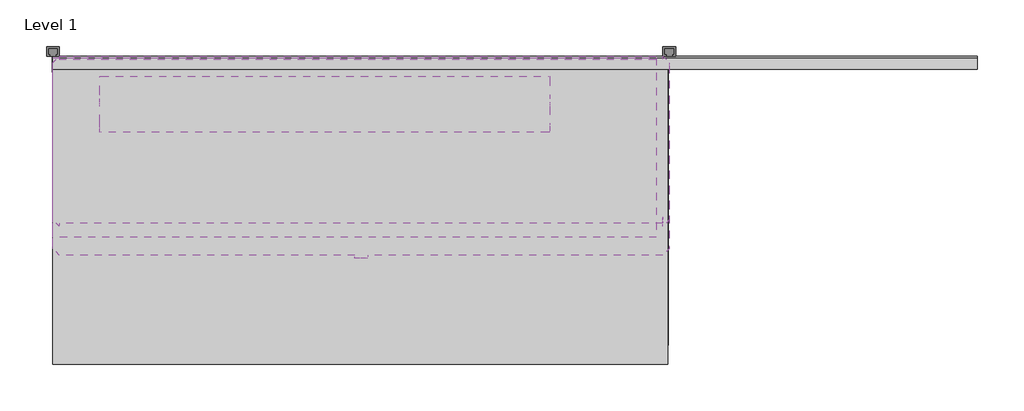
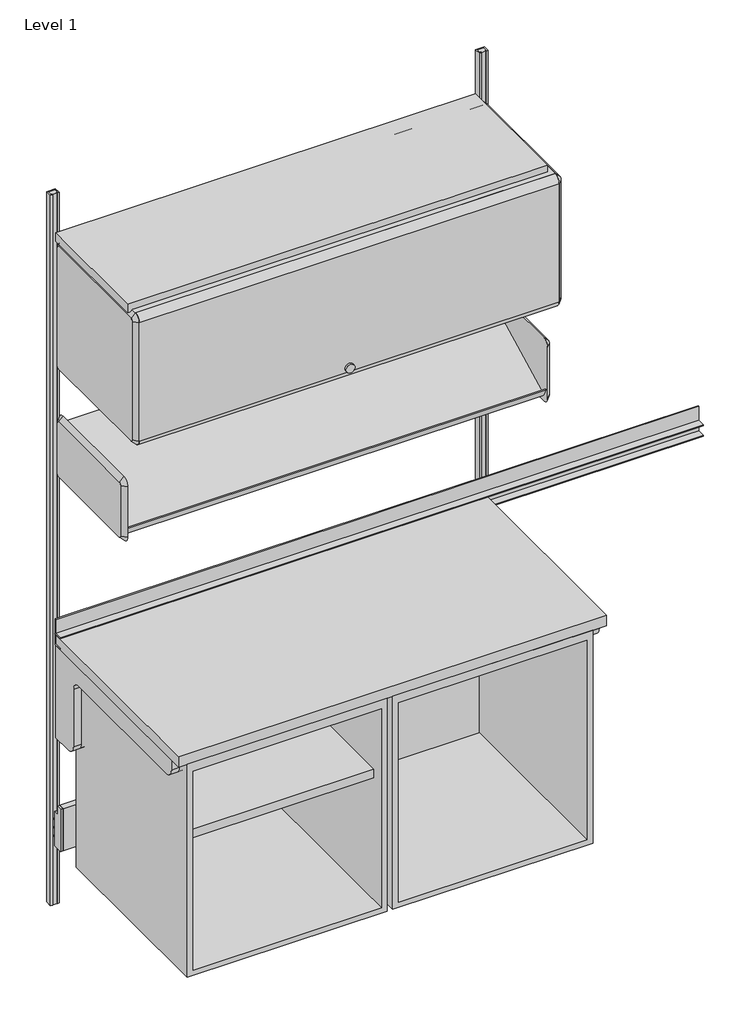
# One storey, incomplete: 13 furniture elements, 1 light fixture.
"""IFC4 building model written with IfcOpenShell, lengths in millimetres."""

from ifc_helpers import new_model, si_unit, origin, place, context, project, spatial, transform, mapped, element, save
from components import furniture_d92eedc3, furniture_0d7dd6e3, furniture_84a85ef8, furniture_de886b3f, furniture_05729c69, furniture_3fd23725, furniture_82a65ebb, furniture_4a924b53, furniture_2fefcdf8, furniture_ea425779, light_fixture_a1dc7b85

model = new_model("IFC4")

# Units and contexts
model_context = context("Model", 3, world=origin())
ifc_project = project(units=[si_unit("LENGTHUNIT", "METRE", prefix="MILLI")], contexts=[model_context])

# Site, building, storey
site = spatial("IfcSite", under=ifc_project)
building = spatial("IfcBuilding", under=site)
storey = spatial("IfcBuildingStorey", under=building, Name="Level 1", Elevation=0.0)

# Furniture
placement = place(None, origin())
furniture_shape = furniture_d92eedc3(model_context)
element("IfcFurniture", 1, ObjectType="HermanMiller_CoStruc_C2910_WorkSurfaceBacksplash : 3\"H x 72\"W", at=placement, inside=storey, context=model_context, shape_type="MappedRepresentation", body=[
    mapped(furniture_shape, transform((914.4, -19.05, 0.0), x_axis=(1.0, 0.0, 0.0), y_axis=(0.0, 1.0, 0.0), z_axis=(0.0, 0.0, 1.0))),
])
furniture_2_shape = furniture_0d7dd6e3(model_context)
element("IfcFurniture", 2, ObjectType="HermanMiller_CoStruc_C5040_StorageCase : 25\"H x 23\"D x 22\"W", at=placement, inside=storey, context=model_context, shape_type="MappedRepresentation", body=[
    mapped(furniture_2_shape, transform((892.79222, -355.7905, 0.0), x_axis=(1.0, 0.0, 0.0), y_axis=(0.0, 1.0, 0.0), z_axis=(0.0, 0.0, 1.0))),
])
element("IfcFurniture", 3, ObjectType="HermanMiller_CoStruc_C5040_StorageCase : 25\"H x 23\"D x 22\"W", at=placement, inside=storey, context=model_context, shape_type="MappedRepresentation", body=[
    mapped(furniture_2_shape, transform((308.59222, -355.7905, 0.0), x_axis=(1.0, 0.0, 0.0), y_axis=(0.0, 1.0, 0.0), z_axis=(0.0, 0.0, 1.0))),
])
furniture_3_shape = furniture_84a85ef8(model_context)
element("IfcFurniture", 4, ObjectType="HermanMiller_CoStruc_C2140H_WorkSurfaceSupport_Heavy Duty : 11\"H x 24\"D x 48\"W", at=placement, inside=storey, context=model_context, shape_type="MappedRepresentation", body=[
    mapped(furniture_3_shape, transform((609.6, -196.85, 0.0), x_axis=(1.0, 0.0, 0.0), y_axis=(0.0, 1.0, 0.0), z_axis=(0.0, 0.0, 1.0))),
])
furniture_4_shape = furniture_de886b3f(model_context)
element("IfcFurniture", 5, ObjectType="HermanMiller_CoStruc_C2141_Heavy-DutyWorkSurface : 24\"D x 48\"W Lam", at=placement, inside=storey, context=model_context, shape_type="MappedRepresentation", body=[
    mapped(furniture_4_shape, transform((303.23536, -196.85, 0.0), x_axis=(1.0, 0.0, 0.0), y_axis=(0.0, 1.0, 0.0), z_axis=(0.0, 0.0, 1.0))),
])
furniture_5_shape = furniture_05729c69(model_context)
element("IfcFurniture", 6, ObjectType="HermanMiller_CoStruc_C5041_StorageCaseShelf : 23\"D x 22\"W", at=placement, inside=storey, context=model_context, shape_type="MappedRepresentation", body=[
    mapped(furniture_5_shape, transform((463.1832004, -864.6875612, 0.0), x_axis=(1.0, 0.0, 0.0), y_axis=(0.0, 1.0, 0.0), z_axis=(0.0, 0.0, 1.0))),
])
element("IfcFurniture", 7, ObjectType="HermanMiller_CoStruc_C5041_StorageCaseShelf : 23\"D x 22\"W", at=placement, inside=storey, context=model_context, shape_type="MappedRepresentation", body=[
    mapped(furniture_5_shape, transform((463.1832004, -864.6875612, 0.0), x_axis=(1.0, 0.0, 0.0), y_axis=(0.0, 1.0, 0.0), z_axis=(0.0, 0.0, 1.0))),
])
furniture_6_shape = furniture_3fd23725(model_context)
element("IfcFurniture", 8, ObjectType="HermanMiller_ActionOffice_AO521_Add-OnShelf : 15\"\"D x 48\"\"W", at=placement, inside=storey, context=model_context, shape_type="MappedRepresentation", body=[
    mapped(furniture_6_shape, transform((756.2484004, -730.3164812, 0.0), x_axis=(1.0, 0.0, 0.0), y_axis=(0.0, 1.0, 0.0), z_axis=(0.0, 0.0, 1.0))),
])
furniture_7_shape = furniture_82a65ebb(model_context)
element("IfcFurniture", 9, ObjectType="HermanMiller_ActionOffice_A3352_B-StyleFlipperDoorUnit : 15 1/2\"H x 16\"D x 48\"W", at=placement, inside=storey, context=model_context, shape_type="MappedRepresentation", body=[
    mapped(furniture_7_shape, transform((609.6, -228.6, 0.0), x_axis=(1.0, 0.0, 0.0), y_axis=(0.0, 1.0, 0.0), z_axis=(0.0, 0.0, 1.0))),
])
furniture_8_shape = furniture_4a924b53(model_context)
element("IfcFurniture", 10, ObjectType="HermanMiller_ActionOffice_A3220_B-StyleStorageDisplay : Display 13\"D x 48\"W", at=placement, inside=storey, context=model_context, shape_type="MappedRepresentation", body=[
    mapped(furniture_8_shape, transform((733.5420045, -200.025, 0.0), x_axis=(1.0, 0.0, 0.0), y_axis=(0.0, 1.0, 0.0), z_axis=(0.0, 0.0, 1.0))),
])
furniture_9_shape = furniture_2fefcdf8(model_context)
element("IfcFurniture", 11, ObjectType="HermanMiller_CoStruc_C1610_AdapterRail : 48\"W", at=placement, inside=storey, context=model_context, shape_type="MappedRepresentation", body=[
    mapped(furniture_9_shape, transform((608.03536, -34.925, 0.0), x_axis=(1.0, 0.0, 0.0), y_axis=(0.0, 1.0, 0.0), z_axis=(0.0, 0.0, 1.0))),
])
furniture_10_shape = furniture_ea425779(model_context)
element("IfcFurniture", 12, ObjectType="HermanMiller_ActionOffice_AO213_WallStrip : 84\"H", at=placement, inside=storey, context=model_context, shape_type="MappedRepresentation", body=[
    mapped(furniture_10_shape, transform((0.0, 0.0, 0.0), x_axis=(1.0, 0.0, 0.0), y_axis=(0.0, 1.0, 0.0), z_axis=(0.0, 0.0, 1.0))),
])
element("IfcFurniture", 13, ObjectType="HermanMiller_ActionOffice_AO213_WallStrip : 84\"H", at=placement, inside=storey, context=model_context, shape_type="MappedRepresentation", body=[
    mapped(furniture_10_shape, transform((1219.2, 0.0, 0.0), x_axis=(1.0, 0.0, 0.0), y_axis=(0.0, 1.0, 0.0), z_axis=(0.0, 0.0, 1.0))),
])

# Light fixture
light_fixture_shape = light_fixture_a1dc7b85(model_context)
element("IfcLightFixture", 14, ObjectType="HermanMiller_SupplementalProducts_G6136_UtilityTaskLight : AO Etho Canvas 42W", at=placement, inside=storey, context=model_context, shape_type="MappedRepresentation", body=[
    mapped(light_fixture_shape, transform((537.718, -114.3, 0.0), x_axis=(1.0, 0.0, 0.0), y_axis=(0.0, 1.0, 0.0), z_axis=(0.0, 0.0, 1.0))),
])

save(model, "model.ifc")
